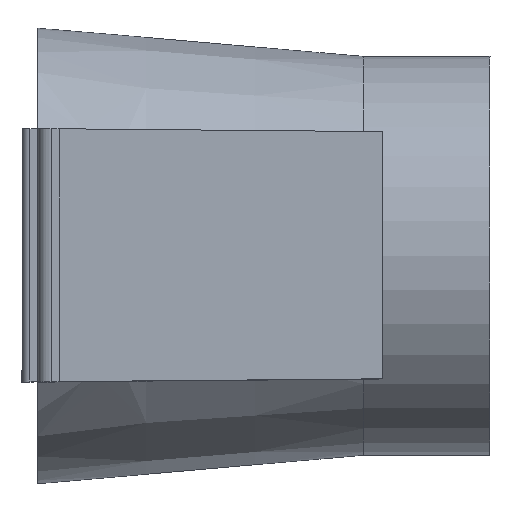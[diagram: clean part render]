
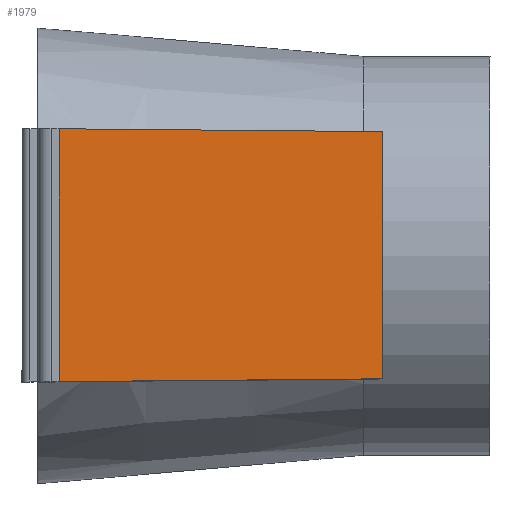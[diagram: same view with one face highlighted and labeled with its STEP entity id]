
A CAD part, top view. The second image highlights one B-rep face of the part: STEP entity #1979.
In plain terms, the highlighted planar face has unit normal (0.009, 0, 1).
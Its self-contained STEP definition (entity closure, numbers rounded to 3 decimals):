
#177=PLANE('',#2136);
#280=FACE_OUTER_BOUND('',#401,.T.);
#401=EDGE_LOOP('',(#1809,#1810,#1811,#1812));
#589=LINE('',#3395,#795);
#593=LINE('',#3403,#799);
#599=LINE('',#3439,#805);
#607=LINE('',#3459,#813);
#795=VECTOR('',#2539,10.);
#799=VECTOR('',#2547,10.);
#805=VECTOR('',#2573,10.);
#813=VECTOR('',#2591,10.);
#1011=VERTEX_POINT('',#3392);
#1012=VERTEX_POINT('',#3394);
#1014=VERTEX_POINT('',#3402);
#1025=VERTEX_POINT('',#3438);
#1269=EDGE_CURVE('',#1011,#1012,#589,.F.);
#1273=EDGE_CURVE('',#1012,#1014,#593,.T.);
#1288=EDGE_CURVE('',#1025,#1014,#599,.F.);
#1299=EDGE_CURVE('',#1011,#1025,#607,.T.);
#1809=ORIENTED_EDGE('',*,*,#1288,.T.);
#1810=ORIENTED_EDGE('',*,*,#1273,.F.);
#1811=ORIENTED_EDGE('',*,*,#1269,.F.);
#1812=ORIENTED_EDGE('',*,*,#1299,.T.);
#1979=ADVANCED_FACE('',(#280),#177,.T.);
#2136=AXIS2_PLACEMENT_3D('',#3458,#2589,#2590);
#2539=DIRECTION('',(1.,0.009,-0.009));
#2547=DIRECTION('',(0.,1.,0.));
#2573=DIRECTION('',(1.,-0.009,-0.009));
#2589=DIRECTION('center_axis',(0.009,0.,1.));
#2590=DIRECTION('ref_axis',(1.,0.,-0.009));
#2591=DIRECTION('',(0.,1.,0.));
#3392=CARTESIAN_POINT('',(12.15,-4.649,14.));
#3394=CARTESIAN_POINT('',(0.,-4.755,14.106));
#3395=CARTESIAN_POINT('',(2.735,-4.731,14.082));
#3402=CARTESIAN_POINT('',(0.,4.755,14.106));
#3403=CARTESIAN_POINT('',(0.,0.,14.106));
#3438=CARTESIAN_POINT('',(12.15,4.649,14.));
#3439=CARTESIAN_POINT('',(2.735,4.731,14.082));
#3458=CARTESIAN_POINT('Origin',(0.,0.,14.106));
#3459=CARTESIAN_POINT('',(12.15,4.65,14.));
